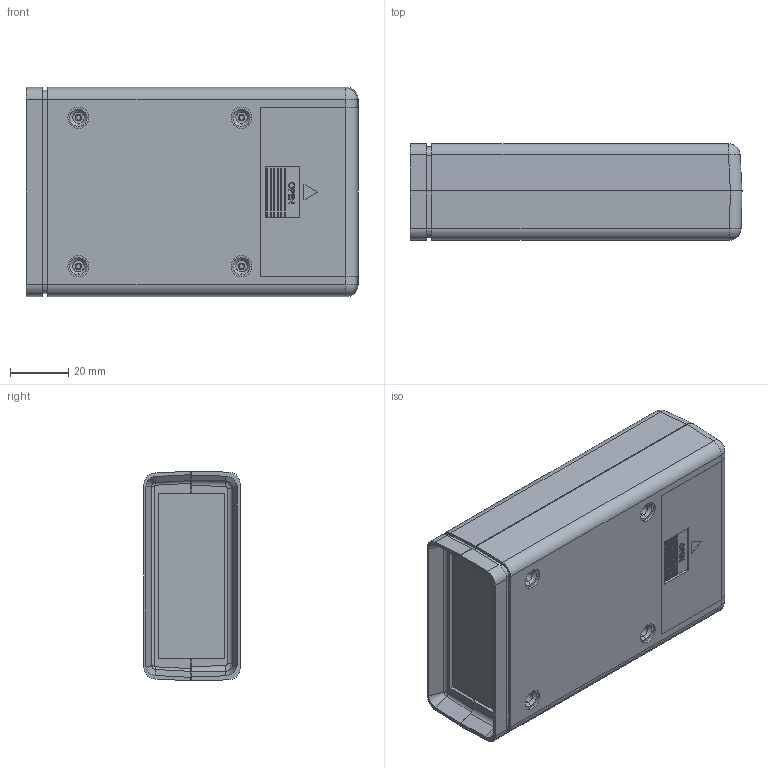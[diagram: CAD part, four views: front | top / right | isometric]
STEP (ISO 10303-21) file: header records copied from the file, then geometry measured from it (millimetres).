
FILE_DESCRIPTION (( 'STEP AP214' ), '1' );
FILE_NAME ('UOCS-114.STEP', '2020-05-22T22:26:39', ( 'Rudy' ), ( '' ), 'SwSTEP 2.0', 'SolidWorks 2014', '' );
FILE_SCHEMA (( 'AUTOMOTIVE_DESIGN' ));
Length unit declared in the file: inch
Products named in the file (5): UCCS 9V DOOR; UOCS-S; UOCS-114; UOCS 9V Bottom; UOCS-Shallow Top
Assembly tree (4 placements, depth 2):
  UOCS-114
    UOCS 9V Bottom
    UOCS-Shallow Top
    UCCS 9V DOOR
    UOCS-S
Bounding box: 114 x 33.01 x 72 mm (x, y, z)
Volume: 83197.6 mm3; surface area: 70620.1 mm2
Topology: 4 solids, 4 shells, 706 faces, 1894 edges, 1228 vertices
Faces by surface type: plane 482, cylinder 124, cone 48, bspline 34, torus 10, sphere 8
Entity records: 23861 total; most frequent: CARTESIAN_POINT 6051, ORIENTED_EDGE 3772, DIRECTION 3467, EDGE_CURVE 1886, VECTOR 1435, LINE 1435, VERTEX_POINT 1228, AXIS2_PLACEMENT_3D 1016
